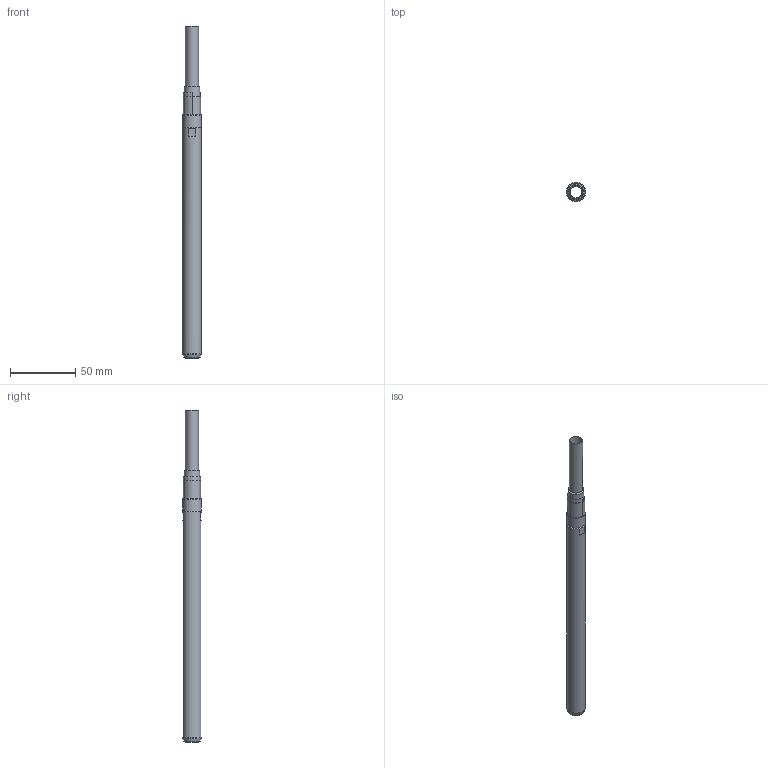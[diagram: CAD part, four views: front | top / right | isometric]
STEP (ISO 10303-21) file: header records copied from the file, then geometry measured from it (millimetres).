
FILE_DESCRIPTION(('STEP AP214'),'1');
FILE_NAME('LC-14P200-CON SEDE.stp','2025-10-28T13:12:56',(' '),(' '),'Spatial InterOp 3D',' ',' ');
FILE_SCHEMA(('AUTOMOTIVE_DESIGN { 1 0 10303 214 1 1 1 1 }'));
Length unit declared in the file: metre
Products named in the file (3): LC-14P200-SEDI; LC-14P200
Bounding box: 15 x 15 x 253.75 mm (x, y, z)
Volume: 17703.5 mm3; surface area: 17834.4 mm2
Topology: 1 solids, 3 shells, 23 faces, 52 edges, 36 vertices
Faces by surface type: plane 10, cylinder 7, cone 4, torus 2
Full cylindrical faces by diameter (mm): 9 x1, 10 x1, 12.01 x1, 13.15 x1, 14 x2
Entity records: 919 total; most frequent: DIRECTION 110, CARTESIAN_POINT 89, ORIENTED_EDGE 60, AXIS2_PLACEMENT_3D 50, STYLED_ITEM 49, PRESENTATION_STYLE_ASSIGNMENT 49, COLOUR_RGB 49, EDGE_LOOP 41
